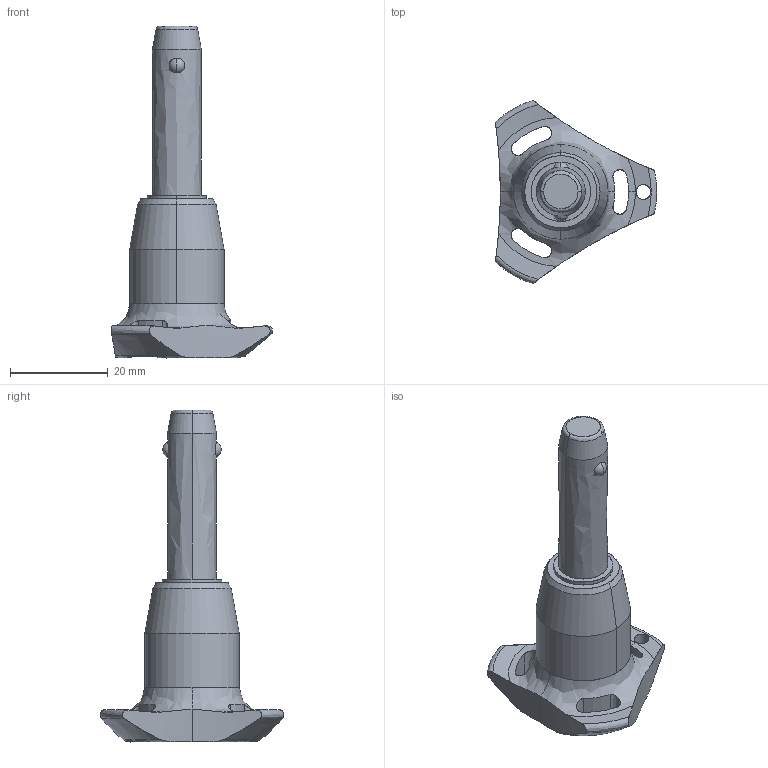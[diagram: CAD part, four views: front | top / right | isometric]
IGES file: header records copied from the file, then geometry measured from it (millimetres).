
Start section: SolidWorks IGES file using analytic representation for surfaces
Global section: file name: C:\Users\ianosborn\Desktop\QR1704_v2\QR1704_v2_20251111_IGES\QR1704.M10-025-S.igs; native system: SolidWorks 2019; preprocessor: SolidWorks 2019; author: IanOsborn; date: 251112.091855; units: millimetre
Bounding box: 33 x 37.51 x 67.9 mm (x, y, z)
Surface area: 4949.8 mm2 (no closed solid volume)
Topology: 0 solids, 0 shells, 65 faces, 1286 edges, 1282 vertices
Faces by surface type: revolution 50, bspline 15
